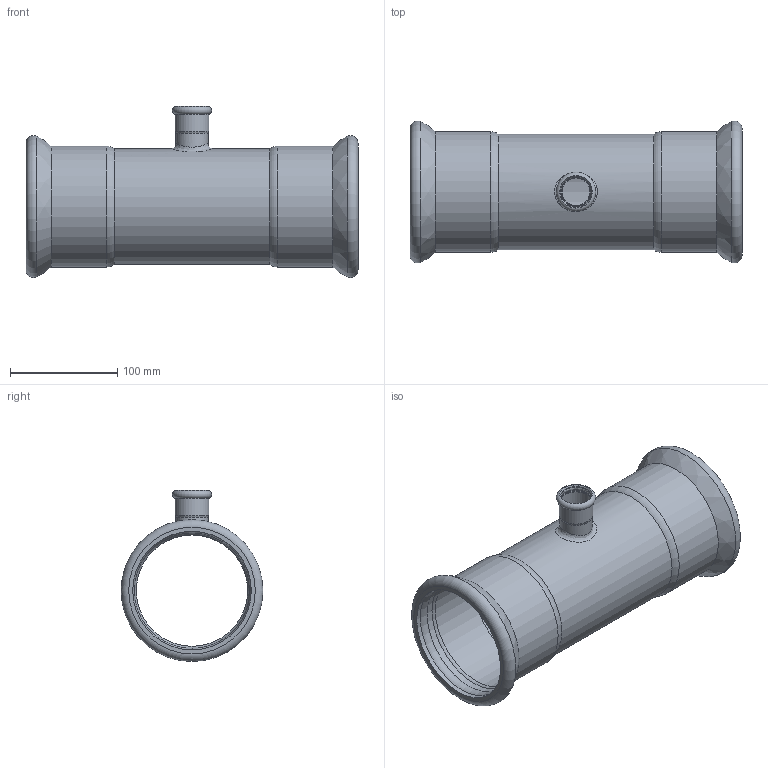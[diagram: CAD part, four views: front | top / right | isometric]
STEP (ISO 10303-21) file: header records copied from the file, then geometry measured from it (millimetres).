
FILE_DESCRIPTION(/* description */ ('TEE RIDOTTO 108-28-108'),/* implementation_level */ '2;1');
FILE_NAME(/* name */ 'T:\A_ARTICOLI\ARTICOLI PRODOTTI_WEB\Articoli_STEELPRES_WEB\Temporary Step\392108028_Steelpres.ipt.step',/* time_stamp */ '2016-01-20T11:57:18+01:00',/* author */ ('Ghirlinghelli Diego'),/* organization */ (''),/* preprocessor_version */ 'ST-DEVELOPER v15.2',/* originating_system */ 'Autodesk Inventor 2014',/* authorisation */ 'R.M. S.p.A. si riserva a termini di legge la proprietà del presente disegno con divieto di riprodurlo o comunicarlo a terzi senza sua autorizzazione scritta');
FILE_SCHEMA (('AUTOMOTIVE_DESIGN { 1 0 10303 214 3 1 1 }'));
Length unit declared in the file: millimetre
Products named in the file (1): 392108028_Steelpres
Bounding box: 310 x 132.47 x 159.73 mm (x, y, z)
Volume: 329503.5 mm3; surface area: 229428.1 mm2
Topology: 1 solids, 1 shells, 40 faces, 93 edges, 56 vertices
Faces by surface type: cylinder 17, torus 15, bspline 4, plane 3, cone 1
Full cylindrical faces by diameter (mm): 26 x1, 27 x1, 28.4 x1, 28.8 x2, 30 x1, 31.4 x1, 104 x1, 108 x1, 108.8 x2, 110.7 x4, 112.8 x2
Entity records: 1250 total; most frequent: CARTESIAN_POINT 509, DIRECTION 160, ORIENTED_EDGE 98, AXIS2_PLACEMENT_3D 80, EDGE_LOOP 78, EDGE_CURVE 49, VERTEX_POINT 45, CIRCLE 43
